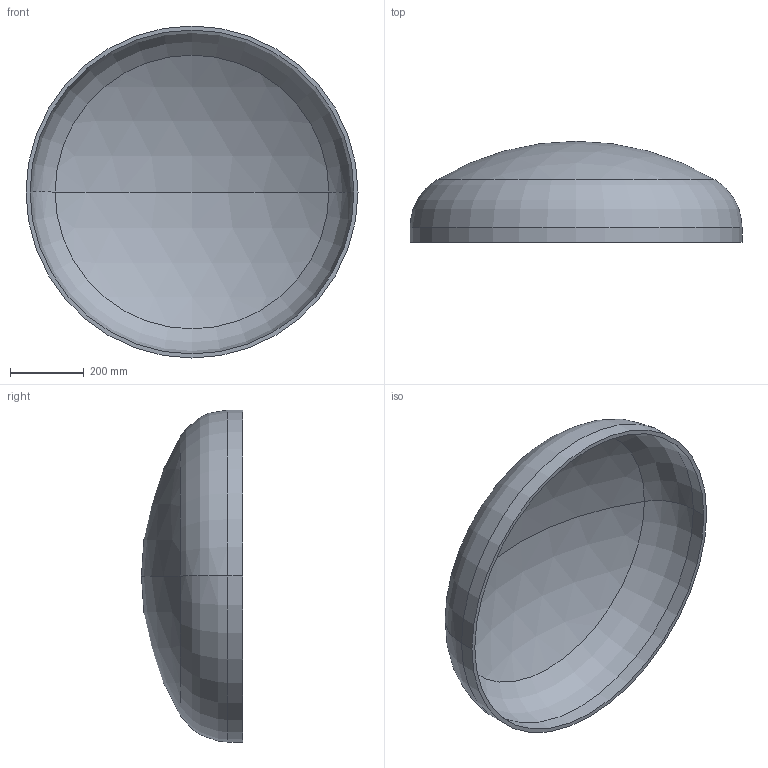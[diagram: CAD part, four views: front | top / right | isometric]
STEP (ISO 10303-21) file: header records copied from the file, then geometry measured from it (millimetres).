
FILE_DESCRIPTION (( 'STEP AP203' ), '1' );
FILE_NAME ('DIN 28013 Korbbogenform_-_Boden DIN 28013 - 900 x 40 - I - s=11.step', '2016-07-01T08:25:57', ( '' ), ( '' ), 'SwSTEP 2.0', 'SolidWorks 2013', '' );
FILE_SCHEMA (( 'CONFIG_CONTROL_DESIGN' ));
Length unit declared in the file: millimetre
Products named in the file (1): DIN 28013 Korbbogenform_-_Boden DIN 28013 - 900 x 40 - I - s=11
Bounding box: 900 x 274.01 x 900 mm (x, y, z)
Volume: 10784448.7 mm3; surface area: 1991783.2 mm2
Topology: 1 solids, 1 shells, 13 faces, 24 edges, 14 vertices
Faces by surface type: torus 4, cylinder 4, sphere 4, plane 1
Entity records: 407 total; most frequent: DIRECTION 72, CARTESIAN_POINT 52, ORIENTED_EDGE 48, AXIS2_PLACEMENT_3D 34, EDGE_CURVE 24, CIRCLE 20, EDGE_LOOP 14, VERTEX_POINT 14
